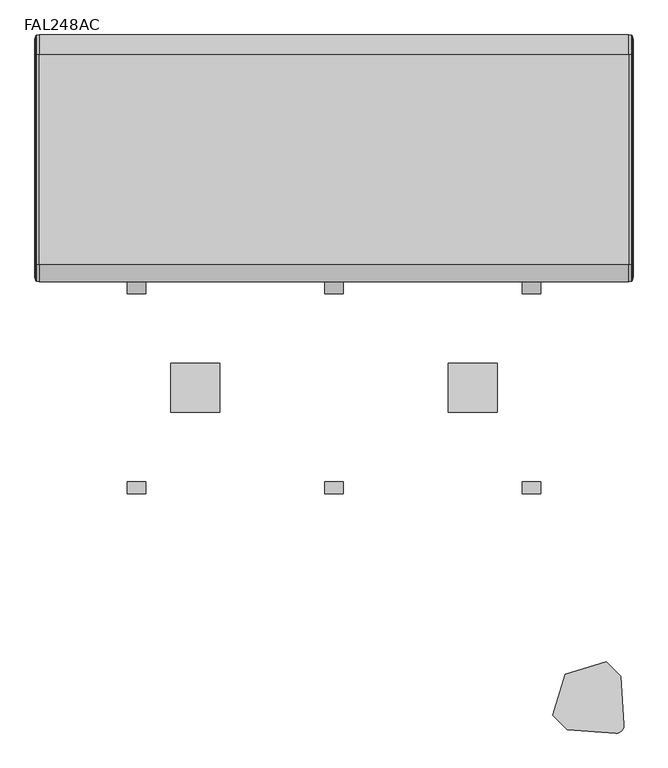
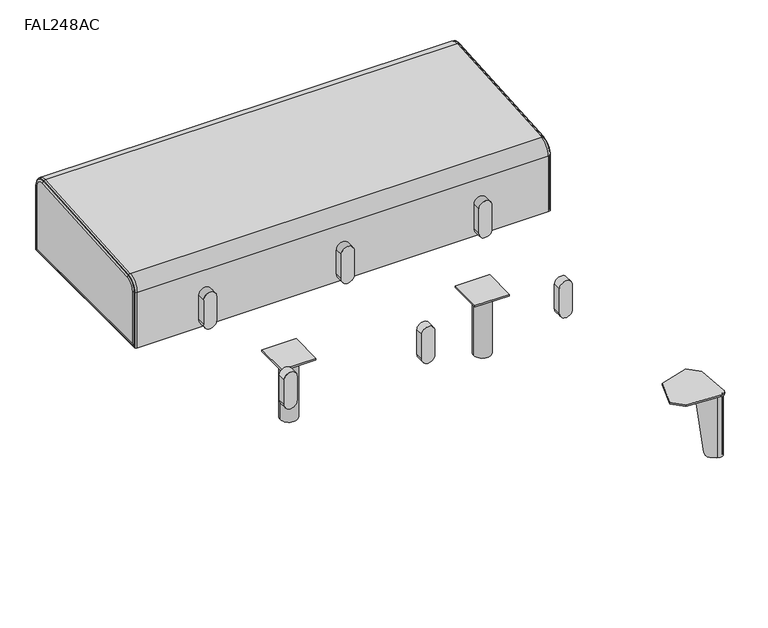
"""IFC4 building model written with IfcOpenShell, lengths in millimetres: furniture geometry, Stance_HC-Flora-Seat_Straight-Double_Side : FAL248AC."""

from ifc_helpers import new_model, si_unit, point, frame, frame_2d, origin, origin_with_axes, place, context, project, spatial, polyline, circle_curve, ellipse_curve, trimmed, segment, composite_curve, outline, extrude, source, transform, mapped, element, save
from ifc_brep_helpers import plane_surface, cylinder_surface, revolved_surface, advanced_brep


def fal248ac_28e8df74(model_context):
    return source(origin(), model_context, "Body", "SolidModel", [
        extrude(outline(composite_curve([segment(trimmed(circle_curve(frame_2d((298.45, 615.95)), 19.05), [point((298.45, 635.0))], [point((298.45, 596.9))], False, "CARTESIAN"), True, "CONTINUOUS"), segment(polyline([(298.45, 596.9), (222.25, 596.9)]), True, "CONTINUOUS"), segment(trimmed(circle_curve(frame_2d((222.25, 615.95)), 19.05), [point((222.25, 596.9))], [point((222.25, 635.0))], False, "CARTESIAN"), True, "CONTINUOUS"), segment(polyline([(222.25, 635.0), (298.45, 635.0)]), True, "CONTINUOUS")], self_intersect=False)), frame((0.0, 193.3564572, 0.0), z_axis=(0.0, 1.0, 0.0), x_axis=(0.0, 0.0, 1.0)), (0.0, 0.0, 1.0), 25.3999939),
        extrude(outline(composite_curve([segment(trimmed(circle_curve(frame_2d((298.45, 1022.35)), 19.05), [point((298.45, 1041.4))], [point((298.45, 1003.3))], False, "CARTESIAN"), True, "CONTINUOUS"), segment(polyline([(298.45, 1003.3), (222.25, 1003.3)]), True, "CONTINUOUS"), segment(trimmed(circle_curve(frame_2d((222.25, 1022.35)), 19.05), [point((222.25, 1003.3))], [point((222.25, 1041.4))], False, "CARTESIAN"), True, "CONTINUOUS"), segment(polyline([(222.25, 1041.4), (298.45, 1041.4)]), True, "CONTINUOUS")], self_intersect=False)), frame((0.0, 193.3564572, 0.0), z_axis=(0.0, 1.0, 0.0), x_axis=(0.0, 0.0, 1.0)), (0.0, 0.0, 1.0), 25.3999939),
        extrude(outline(composite_curve([segment(trimmed(circle_curve(frame_2d((298.45, 209.55)), 19.05), [point((298.45, 228.6))], [point((298.45, 190.5))], False, "CARTESIAN"), True, "CONTINUOUS"), segment(polyline([(298.45, 190.5), (222.25, 190.5)]), True, "CONTINUOUS"), segment(trimmed(circle_curve(frame_2d((222.25, 209.55)), 19.05), [point((222.25, 190.5))], [point((222.25, 228.6))], False, "CARTESIAN"), True, "CONTINUOUS"), segment(polyline([(222.25, 228.6), (298.45, 228.6)]), True, "CONTINUOUS")], self_intersect=False)), frame((0.0, 193.3564572, 0.0), z_axis=(0.0, 1.0, 0.0), x_axis=(0.0, 0.0, 1.0)), (0.0, 0.0, 1.0), 25.3999939),
        extrude(outline(composite_curve([segment(trimmed(circle_curve(frame_2d((901.7, 0.0)), 11.1125), [point((890.5875, 0.0))], [point((912.8125, 0.0))], False, "CARTESIAN"), True, "CONTINUOUS"), segment(trimmed(circle_curve(frame_2d((901.7, 0.0)), 11.1125), [point((912.8125, 0.0))], [point((890.5875, 0.0))], False, "CARTESIAN"), True, "CONTINUOUS")], self_intersect=False)), origin_with_axes(), (0.0, 0.0, 1.0), 3.175),
        extrude(outline(polyline([(952.5000061, 50.7999879), (952.5000061, -50.7999879), (850.8999939, -50.7999879), (850.8999939, 50.7999879), (952.5000061, 50.7999879)])), frame((0.0, 0.0, 193.6877233), z_axis=(0.0, 0.0, 1.0), x_axis=(1.0, 0.0, 0.0)), (0.0, 0.0, 1.0), 4.7751809),
        extrude(outline(composite_curve([segment(trimmed(circle_curve(frame_2d((901.7, 0.0)), 25.205275), [point((876.494725, 0.0))], [point((926.905275, 0.0))], False, "CARTESIAN"), True, "CONTINUOUS"), segment(trimmed(circle_curve(frame_2d((901.7, 0.0)), 25.205275), [point((926.905275, 0.0))], [point((876.494725, 0.0))], False, "CARTESIAN"), True, "CONTINUOUS")], self_intersect=False)), frame((0.0, 0.0, 3.175), z_axis=(0.0, 0.0, 1.0), x_axis=(1.0, 0.0, 0.0)), (0.0, 0.0, 1.0), 190.5127233),
        extrude(outline(composite_curve([segment(trimmed(circle_curve(frame_2d((330.2, 0.0)), 11.1125), [point((319.0875, 0.0))], [point((341.3125, 0.0))], False, "CARTESIAN"), True, "CONTINUOUS"), segment(trimmed(circle_curve(frame_2d((330.2, 0.0)), 11.1125), [point((341.3125, 0.0))], [point((319.0875, 0.0))], False, "CARTESIAN"), True, "CONTINUOUS")], self_intersect=False)), origin_with_axes(), (0.0, 0.0, 1.0), 3.175),
        extrude(outline(polyline([(381.0000061, 50.7999879), (381.0000061, -50.7999879), (279.3999939, -50.7999879), (279.3999939, 50.7999879), (381.0000061, 50.7999879)])), frame((0.0, 0.0, 193.6877233), z_axis=(0.0, 0.0, 1.0), x_axis=(1.0, 0.0, 0.0)), (0.0, 0.0, 1.0), 4.7751809),
        extrude(outline(composite_curve([segment(trimmed(circle_curve(frame_2d((330.2, 0.0)), 25.205275), [point((304.994725, 0.0))], [point((355.405275, 0.0))], False, "CARTESIAN"), True, "CONTINUOUS"), segment(trimmed(circle_curve(frame_2d((330.2, 0.0)), 25.205275), [point((355.405275, 0.0))], [point((304.994725, 0.0))], False, "CARTESIAN"), True, "CONTINUOUS")], self_intersect=False)), frame((0.0, 0.0, 3.175), z_axis=(0.0, 0.0, 1.0), x_axis=(1.0, 0.0, 0.0)), (0.0, 0.0, 1.0), 190.5127233),
        extrude(outline(composite_curve([segment(polyline([(298.45, 596.9), (222.25, 596.9)]), True, "CONTINUOUS"), segment(trimmed(circle_curve(frame_2d((222.25, 615.95)), 19.05), [point((222.25, 596.9))], [point((222.25, 635.0))], False, "CARTESIAN"), True, "CONTINUOUS"), segment(polyline([(222.25, 635.0), (298.45, 635.0)]), True, "CONTINUOUS"), segment(trimmed(circle_curve(frame_2d((298.45, 615.95)), 19.05), [point((298.45, 635.0))], [point((298.45, 596.9))], False, "CARTESIAN"), True, "CONTINUOUS")], self_intersect=False)), frame((0.0, -218.7564511, 0.0), z_axis=(0.0, 1.0, 0.0), x_axis=(0.0, 0.0, 1.0)), (0.0, 0.0, 1.0), 25.3999939),
        extrude(outline(composite_curve([segment(polyline([(298.45, 1003.3), (222.25, 1003.3)]), True, "CONTINUOUS"), segment(trimmed(circle_curve(frame_2d((222.25, 1022.35)), 19.05), [point((222.25, 1003.3))], [point((222.25, 1041.4))], False, "CARTESIAN"), True, "CONTINUOUS"), segment(polyline([(222.25, 1041.4), (298.45, 1041.4)]), True, "CONTINUOUS"), segment(trimmed(circle_curve(frame_2d((298.45, 1022.35)), 19.05), [point((298.45, 1041.4))], [point((298.45, 1003.3))], False, "CARTESIAN"), True, "CONTINUOUS")], self_intersect=False)), frame((0.0, -218.7564511, 0.0), z_axis=(0.0, 1.0, 0.0), x_axis=(0.0, 0.0, 1.0)), (0.0, 0.0, 1.0), 25.3999939),
        extrude(outline(composite_curve([segment(polyline([(298.45, 190.5), (222.25, 190.5)]), True, "CONTINUOUS"), segment(trimmed(circle_curve(frame_2d((222.25, 209.55)), 19.05), [point((222.25, 190.5))], [point((222.25, 228.6))], False, "CARTESIAN"), True, "CONTINUOUS"), segment(polyline([(222.25, 228.6), (298.45, 228.6)]), True, "CONTINUOUS"), segment(trimmed(circle_curve(frame_2d((298.45, 209.55)), 19.05), [point((298.45, 228.6))], [point((298.45, 190.5))], False, "CARTESIAN"), True, "CONTINUOUS")], self_intersect=False)), frame((0.0, -218.7564511, 0.0), z_axis=(0.0, 1.0, 0.0), x_axis=(0.0, 0.0, 1.0)), (0.0, 0.0, 1.0), 25.3999939),
        extrude(outline(composite_curve([segment(polyline([(1176.0692791, 694.0381043), (1189.3741789, 703.3543316)]), True, "CONTINUOUS"), segment(trimmed(circle_curve(frame_2d((1196.0246983, 693.8564425)), 11.5947965), [point((1189.3741789, 703.3543316))], [point((1205.5225874, 687.2059231))], False, "CARTESIAN"), True, "CONTINUOUS"), segment(polyline([(1205.5225874, 687.2059231), (1196.2063601, 673.9010233), (1176.0692791, 694.0381043)]), True, "CONTINUOUS")], self_intersect=False)), frame((0.0, 0.0, 3.175), z_axis=(0.0, 0.0, 1.0), x_axis=(1.0, 0.0, 0.0)), (0.0, 0.0, 1.0), 3.3792927),
        advanced_brep(
        [(1176.2314582, 639.7701134, 193.6877233), (1208.1555647, 685.3622854, 193.6877233), (1187.5305412, 705.9873089, 193.6877233), (1141.9383719, 674.0632043, 193.6877233), (1143.7820096, 671.430227, 193.6877233), (1189.3741789, 703.3543316, 193.6877233), (1205.5225874, 687.2059231, 193.6877233), (1173.5984809, 641.6137512, 193.6877233), (1176.2314582, 639.7701134, 189.1419595), (1205.5225874, 687.2059231, 3.1876992), (1195.4018779, 672.7521081, 3.1876992), (1186.2247818, 659.6459075, 17.1280233), (1189.3741789, 703.3543316, 3.1876992), (1161.8141633, 684.056526, 17.1280233), (1174.9203639, 693.2336221, 3.1876992), (1141.9383719, 674.0632043, 189.1419334), (1187.5305412, 705.9873089, 3.1876992), (1172.6124662, 695.5415198, 3.1876992), (1159.5062656, 686.3644237, 17.1280233), (1208.1555647, 685.3622854, 3.1876992), (1188.5326795, 657.3380098, 17.1280233), (1197.7097756, 670.4442103, 3.1876992)],
        [
            (0, 1),
            (1, 2, circle_curve(frame((1196.0246983, 693.8564425, 193.6877233), z_axis=(0.0, 0.0, 1.0), x_axis=(-1.0, 0.0, 0.0)), 14.8090724)),
            (2, 3),
            (3, 4),
            (4, 5),
            (5, 6, circle_curve(frame((1196.0246983, 693.8564425, 193.6877233), z_axis=(0.0, 0.0, -1.0), x_axis=(-1.0, 0.0, 0.0)), 11.5947965)),
            (6, 7),
            (7, 0),
            (7, 8),
            (8, 0),
            (6, 9),
            (9, 10),
            (10, 11, ellipse_curve(frame((1195.4018779, 672.7521081, 19.0626992), z_axis=(-0.8191509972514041, 0.5735779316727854, 0.0), x_axis=(-0.5735779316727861, -0.8191509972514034, 0.0)), 16.1198923, 15.875)),
            (11, 7),
            (5, 12),
            (12, 9, circle_curve(frame((1196.0246983, 693.8564425, 3.1876992), z_axis=(0.0, 0.0, -1.0), x_axis=(-1.0, 0.0, 0.0)), 11.5947965)),
            (4, 13),
            (13, 14, ellipse_curve(frame((1174.9203639, 693.2336221, 19.0626992), z_axis=(0.5735779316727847, -0.8191509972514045, 0.0), x_axis=(0.8191509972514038, 0.5735779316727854, 0.0)), 16.1198923, 15.875)),
            (14, 12),
            (3, 15),
            (15, 4),
            (2, 16),
            (16, 17),
            (17, 18, ellipse_curve(frame((1172.6124662, 695.5415198, 19.0626992), z_axis=(-0.5735779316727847, 0.8191509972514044, 0.0), x_axis=(0.8191509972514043, 0.573577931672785, 0.0)), 16.1198923, 15.875)),
            (18, 15),
            (1, 19),
            (19, 16, circle_curve(frame((1196.0246983, 693.8564425, 3.1876992), z_axis=(0.0, 0.0, 1.0), x_axis=(-1.0, 0.0, 0.0)), 14.8090724)),
            (8, 20),
            (20, 21, ellipse_curve(frame((1197.7097756, 670.4442103, 19.0626992), z_axis=(0.8191509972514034, -0.5735779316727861, 0.0), x_axis=(-0.5735779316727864, -0.8191509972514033, 0.0)), 16.1198923, 15.875)),
            (21, 19),
            (18, 13),
            (11, 20),
            (21, 10),
            (14, 17),
        ],
        [
            plane_surface(frame((1173.5984809, 641.6137512, 193.6877233), z_axis=(0.0, 0.0, 1.0000000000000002), x_axis=(-0.8191509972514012, 0.5735779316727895, 0.0))),
            plane_surface(frame((1176.2314582, 639.7701134, 193.6877233), z_axis=(-0.5735779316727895, -0.8191509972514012, 0.0), x_axis=(0.0, 0.0, -1.0))),
            plane_surface(frame((1173.5984809, 641.6137512, 193.6877233), z_axis=(-0.8191509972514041, 0.5735779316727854, 0.0), x_axis=(0.0, 0.0, -1.0))),
            revolved_surface(polyline([(1184.4299018, 693.8564425, 3.1876992), (1184.4299018, 693.8564425, 193.6877233)]), (1196.0246983, 693.8564425, 0.0), (0.0, 0.0, -1.0)),
            plane_surface(frame((1189.3741789, 703.3543316, 193.6877233), z_axis=(0.5735779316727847, -0.8191509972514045, 0.0), x_axis=(0.0, 0.0, -1.0))),
            plane_surface(frame((1143.7820096, 671.430227, 193.6877233), z_axis=(-0.8191509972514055, -0.5735779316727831, 0.0), x_axis=(0.0, 0.0, -1.0))),
            plane_surface(frame((1141.9383719, 674.0632043, 193.6877233), z_axis=(-0.5735779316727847, 0.8191509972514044, 0.0), x_axis=(0.0, 0.0, -1.0))),
            cylinder_surface(frame((1196.0246983, 693.8564425, 0.0), z_axis=(0.0, 0.0, 1.0), x_axis=(-1.0, 0.0, 0.0)), 14.8090724),
            plane_surface(frame((1208.1555647, 685.3622854, 193.6877233), z_axis=(0.8191509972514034, -0.5735779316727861, 0.0), x_axis=(0.0, 0.0, -1.0))),
            plane_surface(frame((1153.6224625, 692.2482268, 17.1280233), z_axis=(-0.7018361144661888, -0.7018361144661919, -0.12186934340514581), x_axis=(0.7071067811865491, -0.707106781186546, 0.0))),
            plane_surface(frame((1186.112818, 724.7385823, 3.1876992), z_axis=(0.0, 0.0, -1.0), x_axis=(0.707106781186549, -0.707106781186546, 0.0))),
            cylinder_surface(frame((1205.5497538, 662.6042321, 19.0626992), z_axis=(0.7071067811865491, -0.707106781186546, 0.0), x_axis=(-0.707106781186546, -0.7071067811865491, 0.0)), 15.875),
        ],
        [
            (0, [[1, 2, 3, 4, 5, 6, 7, 8]]),
            (1, [[9, 10, -8]]),
            (2, [[11, 12, 13, 14, -7]]),
            (3, [[15, 16, -11, -6]]),
            (4, [[17, 18, 19, -15, -5]]),
            (5, [[20, 21, -4]]),
            (6, [[22, 23, 24, 25, -20, -3]]),
            (7, [[26, 27, -22, -2]]),
            (8, [[-10, 28, 29, 30, -26, -1]]),
            (9, [[-17, -21, -25, 31]]),
            (9, [[-28, -9, -14, 32]]),
            (10, [[-23, -27, -30, 33, -12, -16, -19, 34]]),
            (11, [[-13, -33, -29, -32]]),
            (11, [[-24, -34, -18, -31]]),
        ],
    ),
        extrude(outline(composite_curve([segment(trimmed(circle_curve(frame_2d((1193.9913541, 691.8314754)), 11.1125), [point((1205.1038541, 691.8314754))], [point((1182.8788541, 691.8314754))], False, "CARTESIAN"), True, "CONTINUOUS"), segment(trimmed(circle_curve(frame_2d((1193.9913541, 691.8314754)), 11.1125), [point((1182.8788541, 691.8314754))], [point((1205.1038541, 691.8314754))], False, "CARTESIAN"), True, "CONTINUOUS")], self_intersect=False)), origin_with_axes(), (0.0, 0.0, 1.0), 3.175),
        extrude(outline(composite_curve([segment(trimmed(circle_curve(frame_2d((1197.3438064, 695.1755514)), 15.8749964), [point((1196.2364228, 711.0118771))], [point((1213.1801321, 694.068168))], False, "CARTESIAN"), True, "CONTINUOUS"), segment(polyline([(1213.1801321, 694.068168), (1206.1831602, 594.0067725), (1176.3327865, 564.1564041), (1092.3896864, 590.2214231), (1066.3246518, 674.1645314), (1096.1750239, 704.0149035), (1196.2364228, 711.0118771)]), True, "CONTINUOUS")], self_intersect=False)), frame((0.0, 0.0, 193.6877233), z_axis=(0.0, 0.0, 1.0), x_axis=(1.0, 0.0, 0.0)), (0.0, 0.0, 1.0), 4.7751809),
        extrude(outline(composite_curve([segment(polyline([(1176.0692791, -694.2378839), (1196.2063601, -674.1008029), (1205.5225874, -687.4057027)]), True, "CONTINUOUS"), segment(trimmed(circle_curve(frame_2d((1196.0246983, -694.0562221)), 11.5947965), [point((1205.5225874, -687.4057027))], [point((1189.3741789, -703.5541112))], False, "CARTESIAN"), True, "CONTINUOUS"), segment(polyline([(1189.3741789, -703.5541112), (1176.0692791, -694.2378839)]), True, "CONTINUOUS")], self_intersect=False)), frame((0.0, 0.0, 3.175), z_axis=(0.0, 0.0, 1.0), x_axis=(1.0, 0.0, 0.0)), (0.0, 0.0, 1.0), 3.3792927),
        advanced_brep(
        [(1176.2314582, -639.969893, 193.6877233), (1173.5984809, -641.8135308, 193.6877233), (1205.5225874, -687.4057027, 193.6877233), (1189.3741789, -703.5541112, 193.6877233), (1143.7820096, -671.6300066, 193.6877233), (1141.9383719, -674.2629839, 193.6877233), (1187.5305412, -706.1870885, 193.6877233), (1208.1555647, -685.562065, 193.6877233), (1176.2314582, -639.969893, 189.1419595), (1186.2247818, -659.8456871, 17.1280233), (1195.4018779, -672.9518877, 3.1876992), (1205.5225874, -687.4057027, 3.1876992), (1189.3741789, -703.5541112, 3.1876992), (1174.9203639, -693.4334017, 3.1876992), (1161.8141633, -684.2563056, 17.1280233), (1141.9383719, -674.2629839, 189.1419334), (1159.5062656, -686.5642033, 17.1280233), (1172.6124662, -695.7412994, 3.1876992), (1187.5305412, -706.1870885, 3.1876992), (1208.1555647, -685.562065, 3.1876992), (1197.7097756, -670.64399, 3.1876992), (1188.5326795, -657.5377894, 17.1280233)],
        [
            (0, 1),
            (1, 2),
            (2, 3, circle_curve(frame((1196.0246983, -694.0562221, 193.6877233), z_axis=(0.0, 0.0, -1.0), x_axis=(-1.0, 0.0, 0.0)), 11.5947965)),
            (3, 4),
            (4, 5),
            (5, 6),
            (6, 7, circle_curve(frame((1196.0246983, -694.0562221, 193.6877233), z_axis=(0.0, 0.0, 1.0), x_axis=(-1.0, 0.0, 0.0)), 14.8090724)),
            (7, 0),
            (0, 8),
            (8, 1),
            (1, 9),
            (9, 10, ellipse_curve(frame((1195.4018779, -672.9518877, 19.0626992), z_axis=(-0.8191509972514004, -0.5735779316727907, 0.0), x_axis=(-0.5735779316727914, 0.8191509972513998, 0.0)), 16.1198923, 15.875)),
            (10, 11),
            (11, 2),
            (11, 12, circle_curve(frame((1196.0246983, -694.0562221, 3.1876992), z_axis=(0.0, 0.0, -1.0), x_axis=(-1.0, 0.0, 0.0)), 11.5947965)),
            (12, 3),
            (12, 13),
            (13, 14, ellipse_curve(frame((1174.9203639, -693.4334017, 19.0626992), z_axis=(0.5735779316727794, 0.8191509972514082, 0.0), x_axis=(0.8191509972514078, -0.5735779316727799, 0.0)), 16.1198923, 15.875)),
            (14, 4),
            (4, 15),
            (15, 5),
            (15, 16),
            (16, 17, ellipse_curve(frame((1172.6124662, -695.7412994, 19.0626992), z_axis=(-0.5735779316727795, -0.8191509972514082, 0.0), x_axis=(0.8191509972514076, -0.5735779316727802, 0.0)), 16.1198923, 15.875)),
            (17, 18),
            (18, 6),
            (18, 19, circle_curve(frame((1196.0246983, -694.0562221, 3.1876992), z_axis=(0.0, 0.0, 1.0), x_axis=(-1.0, 0.0, 0.0)), 14.8090724)),
            (19, 7),
            (19, 20),
            (20, 21, ellipse_curve(frame((1197.7097756, -670.64399, 19.0626992), z_axis=(0.8191509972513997, 0.5735779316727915, 0.0), x_axis=(-0.573577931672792, 0.8191509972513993, 0.0)), 16.1198923, 15.875)),
            (21, 8),
            (14, 16),
            (21, 9),
            (17, 13),
            (10, 20),
        ],
        [
            plane_surface(frame((1173.5984809, -641.8135308, 193.6877233), z_axis=(0.0, 0.0, 0.9999999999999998), x_axis=(-0.8191509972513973, -0.5735779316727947, 0.0))),
            plane_surface(frame((1176.2314582, -639.969893, 193.6877233), z_axis=(-0.5735779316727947, 0.8191509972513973, 0.0), x_axis=(0.0, 0.0, -1.0))),
            plane_surface(frame((1173.5984809, -641.8135308, 193.6877233), z_axis=(-0.8191509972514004, -0.5735779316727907, 0.0), x_axis=(0.0, 0.0, -1.0))),
            revolved_surface(polyline([(1184.4299018, -694.0562221, 3.1876992), (1184.4299018, -694.0562221, 193.6877233)]), (1196.0246983, -694.0562221, 0.0), (0.0, 0.0, -1.0)),
            plane_surface(frame((1189.3741789, -703.5541112, 193.6877233), z_axis=(0.5735779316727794, 0.8191509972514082, 0.0), x_axis=(0.0, 0.0, -1.0))),
            plane_surface(frame((1143.7820096, -671.6300066, 193.6877233), z_axis=(-0.8191509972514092, 0.5735779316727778, 0.0), x_axis=(0.0, 0.0, -1.0))),
            plane_surface(frame((1141.9383719, -674.2629839, 193.6877233), z_axis=(-0.5735779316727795, -0.8191509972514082, 0.0), x_axis=(0.0, 0.0, -1.0))),
            cylinder_surface(frame((1196.0246983, -694.0562221, 0.0), z_axis=(0.0, 0.0, 1.0), x_axis=(-1.0, 0.0, 0.0)), 14.8090724),
            plane_surface(frame((1208.1555647, -685.562065, 193.6877233), z_axis=(0.8191509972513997, 0.5735779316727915, 0.0), x_axis=(0.0, 0.0, -1.0))),
            plane_surface(frame((1153.6224625, -692.4480064, 17.1280233), z_axis=(-0.7018361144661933, 0.7018361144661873, -0.12186934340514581), x_axis=(0.7071067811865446, 0.7071067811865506, 0.0))),
            plane_surface(frame((1186.112818, -724.9383619, 3.1876992), z_axis=(0.0, 0.0, -1.0), x_axis=(0.7071067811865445, 0.7071067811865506, 0.0))),
            cylinder_surface(frame((1205.5497538, -662.8040117, 19.0626992), z_axis=(0.7071067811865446, 0.7071067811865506, 0.0), x_axis=(-0.7071067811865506, 0.7071067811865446, 0.0)), 15.875),
        ],
        [
            (0, [[1, 2, 3, 4, 5, 6, 7, 8]]),
            (1, [[-1, 9, 10]]),
            (2, [[-2, 11, 12, 13, 14]]),
            (3, [[-3, -14, 15, 16]]),
            (4, [[-4, -16, 17, 18, 19]]),
            (5, [[-5, 20, 21]]),
            (6, [[-6, -21, 22, 23, 24, 25]]),
            (7, [[-7, -25, 26, 27]]),
            (8, [[-8, -27, 28, 29, 30, -9]]),
            (9, [[31, -22, -20, -19]]),
            (9, [[32, -11, -10, -30]]),
            (10, [[33, -17, -15, -13, 34, -28, -26, -24]]),
            (11, [[-31, -18, -33, -23]]),
            (11, [[-32, -29, -34, -12]]),
        ],
    ),
        extrude(outline(composite_curve([segment(trimmed(circle_curve(frame_2d((1193.9913541, -692.031255)), 11.1125), [point((1205.1038541, -692.031255))], [point((1182.8788541, -692.031255))], False, "CARTESIAN"), True, "CONTINUOUS"), segment(trimmed(circle_curve(frame_2d((1193.9913541, -692.031255)), 11.1125), [point((1182.8788541, -692.031255))], [point((1205.1038541, -692.031255))], False, "CARTESIAN"), True, "CONTINUOUS")], self_intersect=False)), origin_with_axes(), (0.0, 0.0, 1.0), 3.175),
        extrude(outline(composite_curve([segment(polyline([(1196.2364228, -711.2116567), (1096.1750239, -704.2146831), (1066.3246518, -674.364311), (1092.3896864, -590.4212027), (1176.3327865, -564.3561837), (1206.1831602, -594.2065521), (1213.1801321, -694.2679476)]), True, "CONTINUOUS"), segment(trimmed(circle_curve(frame_2d((1197.3438064, -695.375331)), 15.8749964), [point((1213.1801321, -694.2679476))], [point((1196.2364228, -711.2116567))], False, "CARTESIAN"), True, "CONTINUOUS")], self_intersect=False)), frame((0.0, 0.0, 193.6877233), z_axis=(0.0, 0.0, 1.0), x_axis=(1.0, 0.0, 0.0)), (0.0, 0.0, 1.0), 4.7751809),
        advanced_brep(
        [(8.4841935, 726.7564754, 401.7640675), (1223.4158065, 726.7564754, 401.7640675), (1223.4158065, 726.7564754, 198.4374939), (8.4841935, 726.7564754, 198.4374939), (1223.4158065, 218.7564511, 198.4374939), (8.4841935, 218.7564511, 198.4374939), (1223.4158065, 218.7564511, 371.5696858), (8.4841935, 218.7564511, 371.5696858), (8.4841935, 254.198731, 409.5768762), (1223.4158065, 254.198731, 409.5768762), (1223.4158065, 685.9987552, 439.7712579), (8.4841935, 685.9987552, 439.7712579), (0.0, 718.0252254, 401.7640675), (2.6434528, 723.7181949, 401.7640675), (2.6434528, 723.7181949, 201.4757744), (0.0, 718.0252254, 207.1687439), (2.5810757, 725.6518846, 401.7640675), (2.5810757, 725.6518846, 199.5420847), (2.6434528, 221.7947316, 201.4757744), (0.0, 227.4877011, 207.1687439), (2.5810757, 219.8610419, 199.5420847), (2.6434528, 221.7947316, 371.5696858), (0.0, 227.4877011, 371.5696858), (2.5810757, 219.8610419, 371.5696858), (0.0, 254.8077919, 400.8668951), (2.6434528, 254.4106706, 406.5459969), (2.6434528, 686.2106948, 436.7403786), (0.0, 686.6078161, 431.0612768), (2.5810757, 254.2757833, 408.4749762), (2.5810757, 686.0758075, 438.6693579), (1229.3189243, 725.6518846, 401.7640675), (1229.3189243, 725.6518846, 199.5420847), (1229.2565472, 723.7181949, 401.7640675), (1229.2565472, 723.7181949, 201.4757744), (1231.9, 718.0252254, 401.7640675), (1231.9, 718.0252254, 207.1687439), (1229.3189243, 219.8610419, 199.5420847), (1229.2565472, 221.7947316, 201.4757744), (1231.9, 227.4877011, 207.1687439), (1229.3189243, 219.8610419, 371.5696858), (1229.2565472, 221.7947316, 371.5696858), (1231.9, 227.4877011, 371.5696858), (1229.3189243, 254.2757833, 408.4749762), (1229.3189243, 686.0758075, 438.6693579), (1229.2565472, 254.4106706, 406.5459969), (1229.2565472, 686.2106948, 436.7403786), (1231.9, 254.8077919, 400.8668951), (1231.9, 686.6078161, 431.0612768)],
        [
            (0, 1),
            (1, 2),
            (2, 3),
            (3, 0),
            (2, 4),
            (4, 5),
            (5, 3),
            (4, 6),
            (6, 7),
            (7, 5),
            (8, 9),
            (9, 10),
            (10, 11),
            (11, 8),
            (12, 13, circle_curve(frame((7.4519478, 718.0252254, 401.7640675), z_axis=(0.0, 0.0, -1.0), x_axis=(0.0, 1.0, 0.0)), 7.4519478)),
            (13, 14),
            (14, 15, ellipse_curve(frame((7.4519478, 718.0252254, 207.1687439), z_axis=(0.0, 0.7071067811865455, 0.7071067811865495), x_axis=(0.0, -0.7071067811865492, 0.7071067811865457)), 10.5386456, 7.4519478)),
            (15, 12),
            (13, 16, circle_curve(frame((2.9517888, 724.6959921, 401.7640675), z_axis=(0.0, 0.0, -1.0), x_axis=(0.0, 1.0, 0.0)), 1.0252602)),
            (16, 17),
            (17, 14, ellipse_curve(frame((2.9517888, 724.6959921, 200.4979772), z_axis=(0.0, 0.7071067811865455, 0.7071067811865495), x_axis=(0.0, -0.7071067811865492, 0.7071067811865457)), 1.4499369, 1.0252602)),
            (3, 17, ellipse_curve(frame((8.4841935, 710.4305563, 214.763413), z_axis=(0.0, 0.7071067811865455, 0.7071067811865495), x_axis=(0.0, -0.7071067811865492, 0.7071067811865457)), 23.0883362, 16.3259191)),
            (16, 0, circle_curve(frame((8.4841935, 710.4305563, 401.7640675), z_axis=(0.0, 0.0, -1.0), x_axis=(0.0, 1.0, 0.0)), 16.3259191)),
            (14, 18),
            (18, 19, ellipse_curve(frame((7.4519478, 227.4877011, 207.1687439), z_axis=(0.0, 0.7071067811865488, -0.7071067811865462), x_axis=(0.0, 0.7071067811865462, 0.7071067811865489)), 10.5386456, 7.4519478)),
            (19, 15),
            (17, 20),
            (20, 18, ellipse_curve(frame((2.9517888, 220.8169344, 200.4979772), z_axis=(0.0, 0.7071067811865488, -0.7071067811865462), x_axis=(0.0, 0.7071067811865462, 0.7071067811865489)), 1.4499369, 1.0252602)),
            (5, 20, ellipse_curve(frame((8.4841935, 235.0823702, 214.763413), z_axis=(0.0, 0.7071067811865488, -0.7071067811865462), x_axis=(0.0, 0.7071067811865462, 0.7071067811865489)), 23.0883362, 16.3259191)),
            (18, 21),
            (21, 22, circle_curve(frame((7.4519478, 227.4877011, 371.5696858), z_axis=(0.0, 0.0, -1.0), x_axis=(0.0, -1.0, 0.0)), 7.4519478)),
            (22, 19),
            (20, 23),
            (23, 21, circle_curve(frame((2.9517888, 220.8169344, 371.5696858), z_axis=(0.0, 0.0, -1.0), x_axis=(0.0, -1.0, 0.0)), 1.0252602)),
            (7, 23, circle_curve(frame((8.4841935, 235.0823702, 371.5696858), z_axis=(0.0, 0.0, -1.0), x_axis=(0.0, -1.0, 0.0)), 16.3259191)),
            (24, 25, circle_curve(frame((7.4519478, 254.8077919, 400.8668951), z_axis=(0.0, 0.9975640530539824, 0.06975643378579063), x_axis=(0.0, -0.06975643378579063, 0.9975640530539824)), 7.4519478)),
            (25, 26),
            (26, 27, circle_curve(frame((7.4519478, 686.6078161, 431.0612768), z_axis=(0.0, -0.9975640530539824, -0.06975643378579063), x_axis=(0.0, -0.06975643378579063, 0.9975640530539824)), 7.4519478)),
            (27, 24),
            (25, 28, circle_curve(frame((2.9517888, 254.342463, 407.5214122), z_axis=(0.0, 0.9975640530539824, 0.06975643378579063), x_axis=(0.0, -0.06975643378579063, 0.9975640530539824)), 1.0252602)),
            (28, 29),
            (29, 26, circle_curve(frame((2.9517888, 686.1424872, 437.7157939), z_axis=(0.0, -0.9975640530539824, -0.06975643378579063), x_axis=(0.0, -0.06975643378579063, 0.9975640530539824)), 1.0252602)),
            (11, 29, circle_curve(frame((8.4841935, 687.1375931, 423.4851079), z_axis=(0.0, -0.9975640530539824, -0.06975643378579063), x_axis=(0.0, -0.06975643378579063, 0.9975640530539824)), 16.3259191)),
            (28, 8, circle_curve(frame((8.4841935, 255.3375689, 393.2907262), z_axis=(0.0, 0.9975640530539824, 0.06975643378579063), x_axis=(0.0, -0.06975643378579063, 0.9975640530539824)), 16.3259191)),
            (1, 30, circle_curve(frame((1223.4158065, 710.4305563, 401.7640675), z_axis=(0.0, 0.0, -1.0), x_axis=(0.0, 1.0, 0.0)), 16.3259191)),
            (30, 31),
            (31, 2, ellipse_curve(frame((1223.4158065, 710.4305563, 214.763413), z_axis=(0.0, 0.7071067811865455, 0.7071067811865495), x_axis=(0.0, -0.7071067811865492, 0.7071067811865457)), 23.0883362, 16.3259191)),
            (30, 32, circle_curve(frame((1228.9482112, 724.6959921, 401.7640675), z_axis=(0.0, 0.0, -1.0), x_axis=(0.0, 1.0, 0.0)), 1.0252602)),
            (32, 33),
            (33, 31, ellipse_curve(frame((1228.9482112, 724.6959921, 200.4979772), z_axis=(0.0, 0.7071067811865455, 0.7071067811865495), x_axis=(0.0, -0.7071067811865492, 0.7071067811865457)), 1.4499369, 1.0252602)),
            (32, 34, circle_curve(frame((1224.4480522, 718.0252254, 401.7640675), z_axis=(0.0, 0.0, -1.0), x_axis=(0.0, 1.0, 0.0)), 7.4519478)),
            (34, 35),
            (35, 33, ellipse_curve(frame((1224.4480522, 718.0252254, 207.1687439), z_axis=(0.0, 0.7071067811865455, 0.7071067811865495), x_axis=(0.0, -0.7071067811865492, 0.7071067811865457)), 10.5386456, 7.4519478)),
            (31, 36),
            (36, 4, ellipse_curve(frame((1223.4158065, 235.0823702, 214.763413), z_axis=(0.0, 0.7071067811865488, -0.7071067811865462), x_axis=(0.0, 0.7071067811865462, 0.7071067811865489)), 23.0883362, 16.3259191)),
            (33, 37),
            (37, 36, ellipse_curve(frame((1228.9482112, 220.8169344, 200.4979772), z_axis=(0.0, 0.7071067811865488, -0.7071067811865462), x_axis=(0.0, 0.7071067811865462, 0.7071067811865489)), 1.4499369, 1.0252602)),
            (35, 38),
            (38, 37, ellipse_curve(frame((1224.4480522, 227.4877011, 207.1687439), z_axis=(0.0, 0.7071067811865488, -0.7071067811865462), x_axis=(0.0, 0.7071067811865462, 0.7071067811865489)), 10.5386456, 7.4519478)),
            (36, 39),
            (39, 6, circle_curve(frame((1223.4158065, 235.0823702, 371.5696858), z_axis=(0.0, 0.0, -1.0), x_axis=(0.0, -1.0, 0.0)), 16.3259191)),
            (37, 40),
            (40, 39, circle_curve(frame((1228.9482112, 220.8169344, 371.5696858), z_axis=(0.0, 0.0, -1.0), x_axis=(0.0, -1.0, 0.0)), 1.0252602)),
            (38, 41),
            (41, 40, circle_curve(frame((1224.4480522, 227.4877011, 371.5696858), z_axis=(0.0, 0.0, -1.0), x_axis=(0.0, -1.0, 0.0)), 7.4519478)),
            (9, 42, circle_curve(frame((1223.4158065, 255.3375689, 393.2907262), z_axis=(0.0, 0.9975640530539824, 0.06975643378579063), x_axis=(0.0, -0.06975643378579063, 0.9975640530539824)), 16.3259191)),
            (42, 43),
            (43, 10, circle_curve(frame((1223.4158065, 687.1375931, 423.4851079), z_axis=(0.0, -0.9975640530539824, -0.06975643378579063), x_axis=(0.0, -0.06975643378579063, 0.9975640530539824)), 16.3259191)),
            (42, 44, circle_curve(frame((1228.9482112, 254.342463, 407.5214122), z_axis=(0.0, 0.9975640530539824, 0.06975643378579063), x_axis=(0.0, -0.06975643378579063, 0.9975640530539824)), 1.0252602)),
            (44, 45),
            (45, 43, circle_curve(frame((1228.9482112, 686.1424872, 437.7157939), z_axis=(0.0, -0.9975640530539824, -0.06975643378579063), x_axis=(0.0, -0.06975643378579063, 0.9975640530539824)), 1.0252602)),
            (44, 46, circle_curve(frame((1224.4480522, 254.8077919, 400.8668951), z_axis=(0.0, 0.9975640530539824, 0.06975643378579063), x_axis=(0.0, -0.06975643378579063, 0.9975640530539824)), 7.4519478)),
            (46, 47),
            (47, 45, circle_curve(frame((1224.4480522, 686.6078161, 431.0612768), z_axis=(0.0, -0.9975640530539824, -0.06975643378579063), x_axis=(0.0, -0.06975643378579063, 0.9975640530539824)), 7.4519478)),
            (1, 10, circle_curve(frame((1223.4158065, 688.6564754, 401.7640675), z_axis=(1.0, 0.0, 0.0), x_axis=(0.0, -0.06975643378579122, 0.9975640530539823)), 38.1)),
            (43, 30, circle_curve(frame((1229.3189243, 688.6564754, 401.7640675), z_axis=(-1.0, 0.0, 0.0), x_axis=(0.0, -0.06975643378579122, 0.9975640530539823)), 36.9954092)),
            (45, 32, circle_curve(frame((1229.2565472, 688.6564754, 401.7640675), z_axis=(-1.0, 0.0, 0.0), x_axis=(0.0, -0.06975643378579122, 0.9975640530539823)), 35.0617195)),
            (47, 34, circle_curve(frame((1231.9, 688.6564754, 401.7640675), z_axis=(-1.0, 0.0, 0.0), x_axis=(0.0, -0.06975643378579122, 0.9975640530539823)), 29.36875)),
            (12, 27, circle_curve(frame((0.0, 688.6564754, 401.7640675), z_axis=(1.0, 0.0, 0.0), x_axis=(0.0, -0.06975643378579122, 0.9975640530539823)), 29.36875)),
            (26, 13, circle_curve(frame((2.6434528, 688.6564754, 401.7640675), z_axis=(-1.0, 0.0, 0.0), x_axis=(0.0, -0.06975643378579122, 0.9975640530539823)), 35.0617195)),
            (29, 16, circle_curve(frame((2.5810757, 688.6564754, 401.7640675), z_axis=(-1.0, 0.0, 0.0), x_axis=(0.0, -0.06975643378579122, 0.9975640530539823)), 36.9954092)),
            (11, 0, circle_curve(frame((8.4841935, 688.6564754, 401.7640675), z_axis=(-1.0, 0.0, 0.0), x_axis=(0.0, -0.06975643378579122, 0.9975640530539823)), 38.1)),
            (39, 42, circle_curve(frame((1229.3189243, 256.8564511, 371.5696858), z_axis=(-1.0, 0.0, 0.0), x_axis=(0.0, -1.0, 0.0)), 36.9954092)),
            (9, 6, circle_curve(frame((1223.4158065, 256.8564511, 371.5696858), z_axis=(1.0, 0.0, 0.0), x_axis=(0.0, -1.0, 0.0)), 38.1)),
            (40, 44, circle_curve(frame((1229.2565472, 256.8564511, 371.5696858), z_axis=(-1.0, 0.0, 0.0), x_axis=(0.0, -1.0, 0.0)), 35.0617195)),
            (41, 46, circle_curve(frame((1231.9, 256.8564511, 371.5696858), z_axis=(-1.0, 0.0, 0.0), x_axis=(0.0, -1.0, 0.0)), 29.36875)),
            (21, 25, circle_curve(frame((2.6434528, 256.8564511, 371.5696858), z_axis=(-1.0, 0.0, 0.0), x_axis=(0.0, -1.0, 0.0)), 35.0617195)),
            (24, 22, circle_curve(frame((0.0, 256.8564511, 371.5696858), z_axis=(1.0, 0.0, 0.0), x_axis=(0.0, -1.0, 0.0)), 29.36875)),
            (23, 28, circle_curve(frame((2.5810757, 256.8564511, 371.5696858), z_axis=(-1.0, 0.0, 0.0), x_axis=(0.0, -1.0, 0.0)), 36.9954092)),
            (7, 8, circle_curve(frame((8.4841935, 256.8564511, 371.5696858), z_axis=(-1.0, 0.0, 0.0), x_axis=(0.0, -1.0, 0.0)), 38.1)),
        ],
        [
            plane_surface(frame((1223.4158065, 726.7564754, 401.7640675), z_axis=(0.0, 1.0, 0.0), x_axis=(0.0, 0.0, -1.0))),
            plane_surface(frame((1223.4158065, 726.7564754, 198.4374939), z_axis=(0.0, 0.0, -1.0), x_axis=(0.0, -1.0, 0.0))),
            plane_surface(frame((1223.4158065, 218.7564511, 198.4374939), z_axis=(0.0, -1.0, 0.0), x_axis=(0.0, 0.0, 1.0))),
            plane_surface(frame((1223.4158065, 254.198731, 409.5768762), z_axis=(0.0, -0.06975643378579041, 0.9975640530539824), x_axis=(0.0, 0.9975640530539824, 0.06975643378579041))),
            cylinder_surface(frame((7.4519478, 718.0252254, 401.7640675), z_axis=(0.0, 0.0, 1.0), x_axis=(0.0, 1.0, 0.0)), 7.4519478),
            cylinder_surface(frame((2.9517888, 724.6959921, 401.7640675), z_axis=(0.0, 0.0, 1.0), x_axis=(0.0, 1.0, 0.0)), 1.0252602),
            cylinder_surface(frame((8.4841935, 710.4305563, 401.7640675), z_axis=(0.0, 0.0, 1.0), x_axis=(0.0, 1.0, 0.0)), 16.3259191),
            cylinder_surface(frame((7.4519478, 726.7564754, 207.1687439), z_axis=(0.0, 1.0, 0.0), x_axis=(0.0, 0.0, -1.0)), 7.4519478),
            cylinder_surface(frame((2.9517888, 726.7564754, 200.4979772), z_axis=(0.0, 1.0, 0.0), x_axis=(0.0, 0.0, -1.0)), 1.0252602),
            cylinder_surface(frame((8.4841935, 726.7564754, 214.763413), z_axis=(0.0, 1.0, 0.0), x_axis=(0.0, 0.0, -1.0)), 16.3259191),
            cylinder_surface(frame((7.4519478, 227.4877011, 198.4374939), z_axis=(0.0, 0.0, -1.0), x_axis=(0.0, -1.0, 0.0)), 7.4519478),
            cylinder_surface(frame((2.9517888, 220.8169344, 198.4374939), z_axis=(0.0, 0.0, -1.0), x_axis=(0.0, -1.0, 0.0)), 1.0252602),
            cylinder_surface(frame((8.4841935, 235.0823702, 198.4374939), z_axis=(0.0, 0.0, -1.0), x_axis=(0.0, -1.0, 0.0)), 16.3259191),
            cylinder_surface(frame((7.4519478, 254.8077919, 400.8668951), z_axis=(0.0, -0.9975640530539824, -0.06975643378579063), x_axis=(0.0, -0.06975643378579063, 0.9975640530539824)), 7.4519478),
            cylinder_surface(frame((2.9517888, 254.342463, 407.5214122), z_axis=(0.0, -0.9975640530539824, -0.06975643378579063), x_axis=(0.0, -0.06975643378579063, 0.9975640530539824)), 1.0252602),
            cylinder_surface(frame((8.4841935, 255.3375689, 393.2907262), z_axis=(0.0, -0.9975640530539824, -0.06975643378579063), x_axis=(0.0, -0.06975643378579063, 0.9975640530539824)), 16.3259191),
            cylinder_surface(frame((1223.4158065, 710.4305563, 401.7640675), z_axis=(0.0, 0.0, 1.0), x_axis=(0.0, 1.0, 0.0)), 16.3259191),
            cylinder_surface(frame((1228.9482112, 724.6959921, 401.7640675), z_axis=(0.0, 0.0, 1.0), x_axis=(0.0, 1.0, 0.0)), 1.0252602),
            cylinder_surface(frame((1224.4480522, 718.0252254, 401.7640675), z_axis=(0.0, 0.0, 1.0), x_axis=(0.0, 1.0, 0.0)), 7.4519478),
            cylinder_surface(frame((1223.4158065, 726.7564754, 214.763413), z_axis=(0.0, 1.0, 0.0), x_axis=(0.0, 0.0, -1.0)), 16.3259191),
            cylinder_surface(frame((1228.9482112, 726.7564754, 200.4979772), z_axis=(0.0, 1.0, 0.0), x_axis=(0.0, 0.0, -1.0)), 1.0252602),
            cylinder_surface(frame((1224.4480522, 726.7564754, 207.1687439), z_axis=(0.0, 1.0, 0.0), x_axis=(0.0, 0.0, -1.0)), 7.4519478),
            cylinder_surface(frame((1223.4158065, 235.0823702, 198.4374939), z_axis=(0.0, 0.0, -1.0), x_axis=(0.0, -1.0, 0.0)), 16.3259191),
            cylinder_surface(frame((1228.9482112, 220.8169344, 198.4374939), z_axis=(0.0, 0.0, -1.0), x_axis=(0.0, -1.0, 0.0)), 1.0252602),
            cylinder_surface(frame((1224.4480522, 227.4877011, 198.4374939), z_axis=(0.0, 0.0, -1.0), x_axis=(0.0, -1.0, 0.0)), 7.4519478),
            cylinder_surface(frame((1223.4158065, 255.3375689, 393.2907262), z_axis=(0.0, -0.9975640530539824, -0.06975643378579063), x_axis=(0.0, -0.06975643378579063, 0.9975640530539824)), 16.3259191),
            cylinder_surface(frame((1228.9482112, 254.342463, 407.5214122), z_axis=(0.0, -0.9975640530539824, -0.06975643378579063), x_axis=(0.0, -0.06975643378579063, 0.9975640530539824)), 1.0252602),
            cylinder_surface(frame((1224.4480522, 254.8077919, 400.8668951), z_axis=(0.0, -0.9975640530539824, -0.06975643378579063), x_axis=(0.0, -0.06975643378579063, 0.9975640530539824)), 7.4519478),
            revolved_surface(trimmed(ellipse_curve(frame((1223.4158065, 687.1375931, 423.4851079), z_axis=(0.0, -0.9975640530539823, -0.06975643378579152), x_axis=(0.0, -0.06975643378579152, 0.9975640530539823)), 16.3259191, 16.3259191), [point((1229.3189243, 686.0758075, 438.6693579))], [point((1223.4158065, 685.9987552, 439.7712579))], True, "CARTESIAN"), (0.0, 688.6564754, 401.7640675), (-1.0, 0.0, 0.0)),
            revolved_surface(trimmed(ellipse_curve(frame((1228.9482112, 686.1424872, 437.7157939), z_axis=(0.0, -0.9975640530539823, -0.06975643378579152), x_axis=(0.0, -0.06975643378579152, 0.9975640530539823)), 1.0252602, 1.0252602), [point((1229.2565472, 686.2106948, 436.7403786))], [point((1229.3189243, 686.0758075, 438.6693579))], True, "CARTESIAN"), (0.0, 688.6564754, 401.7640675), (-1.0, 0.0, 0.0)),
            revolved_surface(trimmed(ellipse_curve(frame((1224.4480522, 686.6078161, 431.0612768), z_axis=(0.0, -0.9975640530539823, -0.06975643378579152), x_axis=(0.0, -0.06975643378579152, 0.9975640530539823)), 7.4519478, 7.4519478), [point((1231.9, 686.6078161, 431.0612768))], [point((1229.2565472, 686.2106948, 436.7403786))], True, "CARTESIAN"), (0.0, 688.6564754, 401.7640675), (-1.0, 0.0, 0.0)),
            revolved_surface(trimmed(ellipse_curve(frame((7.4519478, 686.6078161, 431.0612768), z_axis=(0.0, -0.9975640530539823, -0.06975643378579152), x_axis=(0.0, -0.06975643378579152, 0.9975640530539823)), 7.4519478, 7.4519478), [point((2.6434528, 686.2106948, 436.7403786))], [point((0.0, 686.6078161, 431.0612768))], True, "CARTESIAN"), (0.0, 688.6564754, 401.7640675), (-1.0, 0.0, 0.0)),
            revolved_surface(trimmed(ellipse_curve(frame((2.9517888, 686.1424872, 437.7157939), z_axis=(0.0, -0.9975640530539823, -0.06975643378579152), x_axis=(0.0, -0.06975643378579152, 0.9975640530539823)), 1.0252602, 1.0252602), [point((2.5810757, 686.0758075, 438.6693579))], [point((2.6434528, 686.2106948, 436.7403786))], True, "CARTESIAN"), (0.0, 688.6564754, 401.7640675), (-1.0, 0.0, 0.0)),
            revolved_surface(trimmed(ellipse_curve(frame((8.4841935, 687.1375931, 423.4851079), z_axis=(0.0, -0.9975640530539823, -0.06975643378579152), x_axis=(0.0, -0.06975643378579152, 0.9975640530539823)), 16.3259191, 16.3259191), [point((8.4841935, 685.9987552, 439.7712579))], [point((2.5810757, 686.0758075, 438.6693579))], True, "CARTESIAN"), (0.0, 688.6564754, 401.7640675), (-1.0, 0.0, 0.0)),
            cylinder_surface(frame((0.0, 688.6564754, 401.7640675), z_axis=(-1.0, 0.0, 0.0), x_axis=(0.0, -0.06975643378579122, 0.9975640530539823)), 38.1),
            revolved_surface(trimmed(ellipse_curve(frame((1223.4158065, 235.0823702, 371.5696858), z_axis=(0.0, 0.0, -1.0), x_axis=(0.0, -1.0, 0.0)), 16.3259191, 16.3259191), [point((1229.3189243, 219.8610419, 371.5696858))], [point((1223.4158065, 218.7564511, 371.5696858))], True, "CARTESIAN"), (0.0, 256.8564511, 371.5696858), (-1.0, 0.0, 0.0)),
            revolved_surface(trimmed(ellipse_curve(frame((1228.9482112, 220.8169344, 371.5696858), z_axis=(0.0, 0.0, -1.0), x_axis=(0.0, -1.0, 0.0)), 1.0252602, 1.0252602), [point((1229.2565472, 221.7947316, 371.5696858))], [point((1229.3189243, 219.8610419, 371.5696858))], True, "CARTESIAN"), (0.0, 256.8564511, 371.5696858), (-1.0, 0.0, 0.0)),
            revolved_surface(trimmed(ellipse_curve(frame((1224.4480522, 227.4877011, 371.5696858), z_axis=(0.0, 0.0, -1.0), x_axis=(0.0, -1.0, 0.0)), 7.4519478, 7.4519478), [point((1231.9, 227.4877011, 371.5696858))], [point((1229.2565472, 221.7947316, 371.5696858))], True, "CARTESIAN"), (0.0, 256.8564511, 371.5696858), (-1.0, 0.0, 0.0)),
            revolved_surface(trimmed(ellipse_curve(frame((7.4519478, 227.4877011, 371.5696858), z_axis=(0.0, 0.0, -1.0), x_axis=(0.0, -1.0, 0.0)), 7.4519478, 7.4519478), [point((2.6434528, 221.7947316, 371.5696858))], [point((0.0, 227.4877011, 371.5696858))], True, "CARTESIAN"), (0.0, 256.8564511, 371.5696858), (-1.0, 0.0, 0.0)),
            revolved_surface(trimmed(ellipse_curve(frame((2.9517888, 220.8169344, 371.5696858), z_axis=(0.0, 0.0, -1.0), x_axis=(0.0, -1.0, 0.0)), 1.0252602, 1.0252602), [point((2.5810757, 219.8610419, 371.5696858))], [point((2.6434528, 221.7947316, 371.5696858))], True, "CARTESIAN"), (0.0, 256.8564511, 371.5696858), (-1.0, 0.0, 0.0)),
            revolved_surface(trimmed(ellipse_curve(frame((8.4841935, 235.0823702, 371.5696858), z_axis=(0.0, 0.0, -1.0), x_axis=(0.0, -1.0, 0.0)), 16.3259191, 16.3259191), [point((8.4841935, 218.7564511, 371.5696858))], [point((2.5810757, 219.8610419, 371.5696858))], True, "CARTESIAN"), (0.0, 256.8564511, 371.5696858), (-1.0, 0.0, 0.0)),
            cylinder_surface(frame((0.0, 256.8564511, 371.5696858), z_axis=(-1.0, 0.0, 0.0), x_axis=(0.0, -1.0, 0.0)), 38.1),
            plane_surface(frame((1231.9, 227.4877011, 371.5696858), z_axis=(1.0, 0.0, 0.0), x_axis=(0.0, 0.0, -1.0))),
            plane_surface(frame((0.0, 227.4877011, 371.5696858), z_axis=(-1.0, 0.0, 0.0), x_axis=(0.0, 0.0, 1.0))),
        ],
        [
            (0, [[1, 2, 3, 4]]),
            (1, [[-3, 5, 6, 7]]),
            (2, [[-6, 8, 9, 10]]),
            (3, [[11, 12, 13, 14]]),
            (4, [[15, 16, 17, 18]]),
            (5, [[-16, 19, 20, 21]]),
            (6, [[-4, 22, -20, 23]]),
            (7, [[-17, 24, 25, 26]]),
            (8, [[-21, 27, 28, -24]]),
            (9, [[-7, 29, -27, -22]]),
            (10, [[-25, 30, 31, 32]]),
            (11, [[-28, 33, 34, -30]]),
            (12, [[-10, 35, -33, -29]]),
            (13, [[36, 37, 38, 39]]),
            (14, [[-37, 40, 41, 42]]),
            (15, [[-14, 43, -41, 44]]),
            (16, [[-2, 45, 46, 47]]),
            (17, [[-46, 48, 49, 50]]),
            (18, [[-49, 51, 52, 53]]),
            (19, [[-5, -47, 54, 55]]),
            (20, [[-50, 56, 57, -54]]),
            (21, [[-53, 58, 59, -56]]),
            (22, [[-8, -55, 60, 61]]),
            (23, [[-57, 62, 63, -60]]),
            (24, [[-59, 64, 65, -62]]),
            (25, [[-12, 66, 67, 68]]),
            (26, [[-67, 69, 70, 71]]),
            (27, [[-70, 72, 73, 74]]),
            (28, [[-45, 75, -68, 76]]),
            (29, [[-48, -76, -71, 77]]),
            (30, [[-51, -77, -74, 78]]),
            (31, [[-15, 79, -38, 80]]),
            (32, [[-19, -80, -42, 81]]),
            (33, [[-23, -81, -43, 82]]),
            (34, [[-1, -82, -13, -75]]),
            (35, [[-61, 83, -66, 84]]),
            (36, [[-63, 85, -69, -83]]),
            (37, [[-65, 86, -72, -85]]),
            (38, [[-31, 87, -36, 88]]),
            (39, [[-34, 89, -40, -87]]),
            (40, [[-35, 90, -44, -89]]),
            (41, [[-9, -84, -11, -90]]),
            (42, [[-52, -78, -73, -86, -64, -58]]),
            (43, [[-18, -26, -32, -88, -39, -79]]),
        ],
    ),
    ])


if __name__ == "__main__":
    model = new_model("IFC4")
    model_context = context("Model", 3, world=origin())
    ifc_project = project(units=[si_unit("LENGTHUNIT", "METRE", prefix="MILLI")], contexts=[model_context])
    site = spatial("IfcSite", under=ifc_project)
    building = spatial("IfcBuilding", under=site)
    placement = place(None, origin())
    fal248ac_shape = fal248ac_28e8df74(model_context)
    element("IfcFurniture", 1, ObjectType="Stance_HC-Flora-Seat_Straight-Double_Side : FAL248AC", at=placement, inside=building, context=model_context, shape_type="MappedRepresentation", body=[
        mapped(fal248ac_shape, transform((0.0, 0.0, 0.0), x_axis=(1.0, 0.0, 0.0), y_axis=(0.0, 1.0, 0.0), z_axis=(0.0, 0.0, 1.0))),
    ])
    save(model, "model.ifc")
